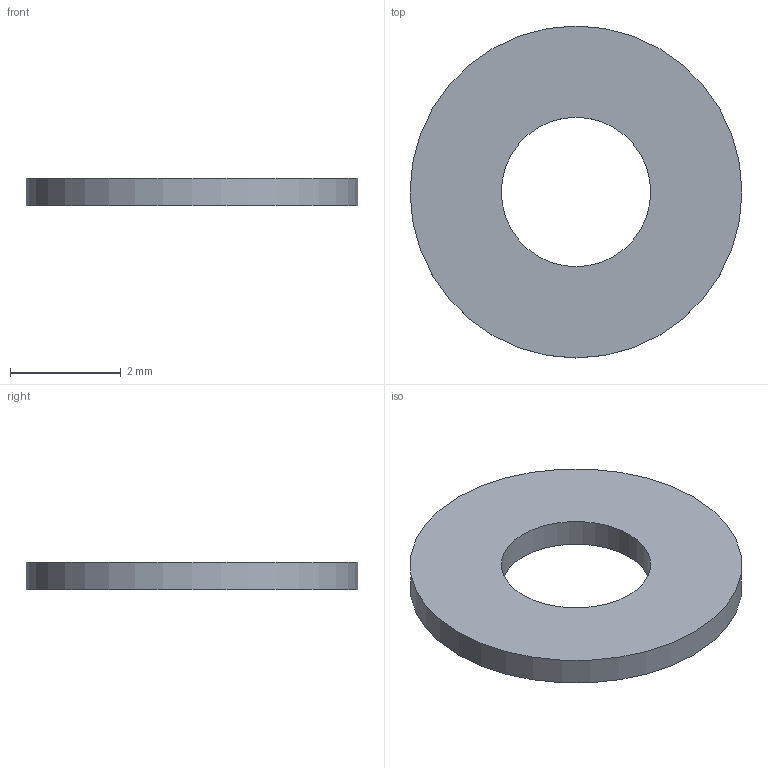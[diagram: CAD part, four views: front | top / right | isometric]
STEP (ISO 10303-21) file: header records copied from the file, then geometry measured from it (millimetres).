
FILE_DESCRIPTION(('Open CASCADE Model'),'2;1');
FILE_NAME('Open CASCADE Shape Model','2026-11-23T18:10:07',('Author'),( 'Open CASCADE'),'Open CASCADE STEP processor 8.0','build123d', 'Unknown');
FILE_SCHEMA(('AUTOMOTIVE_DESIGN { 1 0 10303 214 1 1 1 1 }'));
Length unit declared in the file: millimetre
Products named in the file (2): =>[0:1:1:2]; SOLID
Assembly tree (1 placements, depth 2):
  =>[0:1:1:2]
    SOLID
Bounding box: 6 x 6 x 0.5 mm (x, y, z)
Volume: 11.3 mm3; surface area: 58.8 mm2
Topology: 1 solids, 1 shells, 4 faces, 6 edges, 4 vertices
Faces by surface type: cylinder 2, plane 2
Full cylindrical faces by diameter (mm): 2.7 x1, 6 x1
Entity records: 204 total; most frequent: DIRECTION 34, CARTESIAN_POINT 28, ORIENTED_EDGE 12, PCURVE 12, DEFINITIONAL_REPRESENTATION 12, AXIS2_PLACEMENT_3D 10, LINE 10, VECTOR 10
